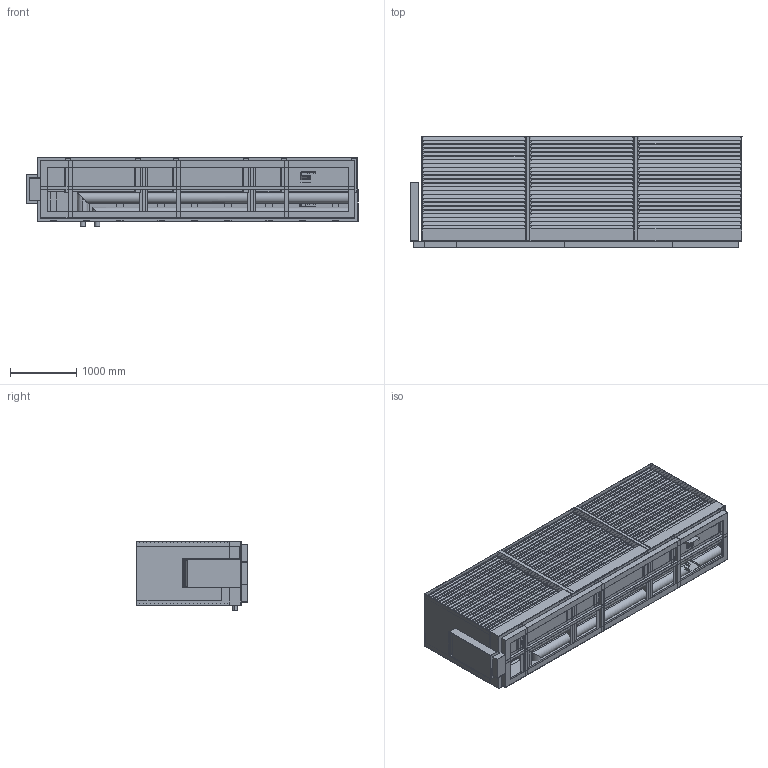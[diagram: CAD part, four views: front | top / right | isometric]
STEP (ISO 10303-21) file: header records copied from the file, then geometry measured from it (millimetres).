
FILE_DESCRIPTION (( 'STEP AP214' ), '1' );
FILE_NAME ('ADAPT MAX 10105_BIM.STEP', '2024-08-21T07:20:16', ( '' ), ( '' ), 'SwSTEP 2.0', 'SolidWorks 2021', '' );
FILE_SCHEMA (( 'AUTOMOTIVE_DESIGN' ));
Length unit declared in the file: millimetre
Products named in the file (5): adapt max - okvir_3; ADAPT MAX 10105_BIM; ADAPT MAX design_dvokapnica_vmesni clen; omara elektro_externa; ADAPT MAX design_dvokapnica_175
Assembly tree (5 placements, depth 2):
  ADAPT MAX 10105_BIM
    adapt max - okvir_3
    ADAPT MAX design_dvokapnica_vmesni clen  x2
    ADAPT MAX design_dvokapnica_175
    omara elektro_externa
Bounding box: 5000 x 1685 x 1040 mm (x, y, z)
Volume: 2133998706.7 mm3; surface area: 136212152.2 mm2
Topology: 86 solids, 210 shells, 2211 faces, 5140 edges, 3352 vertices
Faces by surface type: plane 1931, cylinder 240, bspline 24, torus 16
Entity records: 57535 total; most frequent: CARTESIAN_POINT 9583, ORIENTED_EDGE 7466, DIRECTION 7171, EDGE_CURVE 3735, LINE 3319, VECTOR 3319, VERTEX_POINT 2414, AXIS2_PLACEMENT_3D 1926
